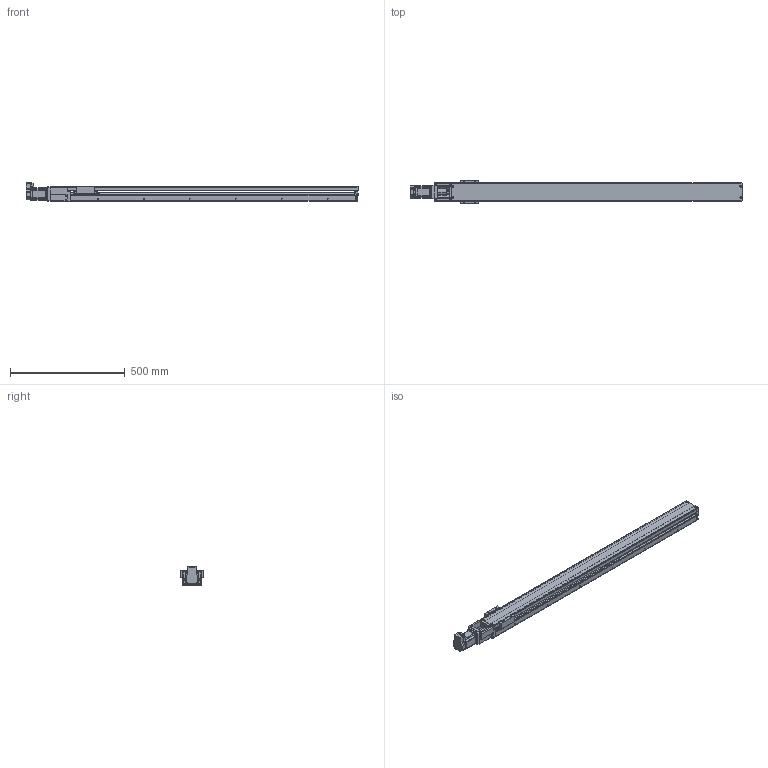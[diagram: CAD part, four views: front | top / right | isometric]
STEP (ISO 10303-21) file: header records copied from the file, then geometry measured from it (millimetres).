
FILE_DESCRIPTION(('FreeCAD Model'),'2;1');
FILE_NAME('Open CASCADE Shape Model','2023-07-31T11:32:39',('Author'),( ''),'Open CASCADE STEP processor 7.5','FreeCAD','Unknown');
FILE_SCHEMA(('AUTOMOTIVE_DESIGN { 1 0 10303 214 1 1 1 1 }'));
Length unit declared in the file: millimetre
Products named in the file (60): SCKR6A_______________; Shapes115; KR45H-SliderCS; KR45H-Slider SpacerCS; Shapes058; Shapes059; Shapes060; Shapes061; Shapes062; Shapes063; Shapes064; Shapes065; Shapes066; Shapes067; Shapes068; Shapes069; Shapes070; Shapes071; Shapes072; Shapes073; Shapes074; Shapes075; Shapes076; Shapes077; Shapes078; Shapes079; Shapes080; Shapes081; Shapes082; Shapes083; Shapes084; Shapes085; Shapes086; Shapes087; Shapes088; Shapes089; Shapes090; Shapes091; Shapes092; Shapes093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
Assembly tree (59 placements, depth 2):
  SCKR6A_______________
    Shapes115
    KR45H-SliderCS
    KR45H-Slider SpacerCS
    Shapes058
    Shapes059
    Shapes060
    Shapes061
    Shapes062
    Shapes063
    Shapes064
    Shapes065
    Shapes066
    Shapes067
    Shapes068
    Shapes069
    Shapes070
    Shapes071
    Shapes072
    Shapes073
    Shapes074
    Shapes075
    Shapes076
    Shapes077
    Shapes078
    Shapes079
    Shapes080
    Shapes081
    Shapes082
    Shapes083
    Shapes084
    Shapes085
    Shapes086
    Shapes087
    Shapes088
    Shapes089
    Shapes090
    Shapes091
    Shapes092
    Shapes093
    Shapes094
    Shapes095
    Shapes096
    Shapes097
    Shapes098
    Shapes099
    Shapes100
    Shapes101
    Shapes102
    Shapes103
    Shapes104
    Shapes105
    Shapes106
    Shapes107
    Shapes108
    Shapes109
    Shapes110
    Shapes111
    Shapes113
    Shapes114
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Bounding box: 1445.01 x 104 x 82.36 mm (x, y, z)
Volume: 3228339.5 mm3; surface area: 875381.4 mm2
Topology: 59 solids, 59 shells, 2421 faces, 5956 edges, 3657 vertices
Faces by surface type: cylinder 950, plane 838, torus 400, cone 130, bspline 89, sphere 14
Entity records: 167586 total; most frequent: CARTESIAN_POINT 45016, DIRECTION 24085, LINE 13033, VECTOR 13033, ORIENTED_EDGE 11792, PCURVE 11792, DEFINITIONAL_REPRESENTATION 11792, EDGE_CURVE 5896
